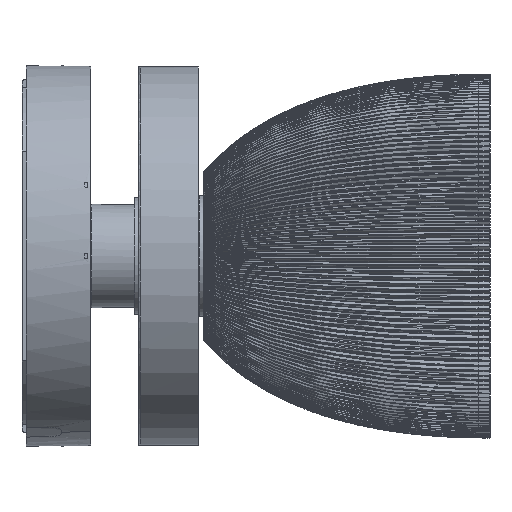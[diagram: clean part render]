
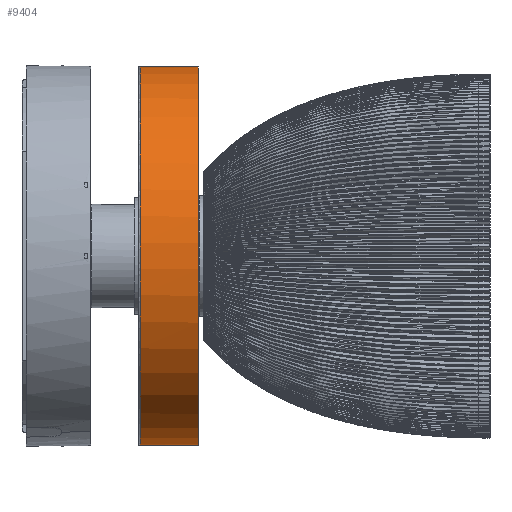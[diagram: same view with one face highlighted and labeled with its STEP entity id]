
A CAD part, left-side view. The second image highlights one B-rep face of the part: STEP entity #9404.
In plain terms, the highlighted free-form (B-spline) face has degree [2, 1] with [5, 2] control points.
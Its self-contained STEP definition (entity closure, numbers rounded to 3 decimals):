
#9404=ADVANCED_FACE('',(#18617),#127626,.T.);
#18617=FACE_OUTER_BOUND('',#27981,.T.);
#27981=EDGE_LOOP('',(#67416,#67417,#67418,#67419));
#67416=ORIENTED_EDGE('',*,*,#87521,.T.);
#67417=ORIENTED_EDGE('',*,*,#87211,.T.);
#67418=ORIENTED_EDGE('',*,*,#87478,.T.);
#67419=ORIENTED_EDGE('',*,*,#87520,.F.);
#87211=EDGE_CURVE('',#118240,#117980,#93168,.T.);
#87478=EDGE_CURVE('',#117980,#118407,#107572,.T.);
#87520=EDGE_CURVE('',#118411,#118407,#93327,.T.);
#87521=EDGE_CURVE('',#118411,#118240,#107610,.T.);
#93168=B_SPLINE_CURVE_WITH_KNOTS('',1,(#453354,#453355),.UNSPECIFIED.,.F.,
 .F.,(2,2),(2.61,22.61),.UNSPECIFIED.);
#93327=B_SPLINE_CURVE_WITH_KNOTS('',1,(#455085,#455086),.UNSPECIFIED.,.F.,
 .F.,(2,2),(2.61,22.61),.UNSPECIFIED.);
#107572=(
BOUNDED_CURVE()
B_SPLINE_CURVE(2,(#454652,#454653,#454654,#454655,#454656),
 .UNSPECIFIED.,.F.,.F.)
B_SPLINE_CURVE_WITH_KNOTS((3,2,3),(0.,102.102,204.204),
 .UNSPECIFIED.)
CURVE()
GEOMETRIC_REPRESENTATION_ITEM()
RATIONAL_B_SPLINE_CURVE((1.,0.707,1.,0.707,1.))
REPRESENTATION_ITEM('')
);
#107610=(
BOUNDED_CURVE()
B_SPLINE_CURVE(2,(#455087,#455088,#455089,#455090,#455091),
 .UNSPECIFIED.,.F.,.F.)
B_SPLINE_CURVE_WITH_KNOTS((3,2,3),(204.204,306.305,408.407),
 .UNSPECIFIED.)
CURVE()
GEOMETRIC_REPRESENTATION_ITEM()
RATIONAL_B_SPLINE_CURVE((1.,0.707,1.,0.707,1.))
REPRESENTATION_ITEM('')
);
#117980=VERTEX_POINT('',#445141);
#118240=VERTEX_POINT('',#445401);
#118407=VERTEX_POINT('',#445568);
#118411=VERTEX_POINT('',#445572);
#127626=(
BOUNDED_SURFACE()
B_SPLINE_SURFACE(2,1,((#443933,#443934),(#443935,#443936),(#443937,#443938),
(#443939,#443940),(#443941,#443942)),.UNSPECIFIED.,.F.,.F.,.F.)
B_SPLINE_SURFACE_WITH_KNOTS((3,2,3),(2,2),(204.204,306.305,
408.407),(0.,25.219),.UNSPECIFIED.)
GEOMETRIC_REPRESENTATION_ITEM()
RATIONAL_B_SPLINE_SURFACE(((1.,1.),(0.707,0.707),
(1.,1.),(0.707,0.707),(1.,1.)))
REPRESENTATION_ITEM('')
SURFACE()
);
#443933=CARTESIAN_POINT('',(0.,-64.11,-65.));
#443934=CARTESIAN_POINT('',(0.,-38.89,-65.));
#443935=CARTESIAN_POINT('',(-65.,-64.11,-65.));
#443936=CARTESIAN_POINT('',(-65.,-38.89,-65.));
#443937=CARTESIAN_POINT('',(-65.,-64.11,0.));
#443938=CARTESIAN_POINT('',(-65.,-38.89,0.));
#443939=CARTESIAN_POINT('',(-65.,-64.11,65.));
#443940=CARTESIAN_POINT('',(-65.,-38.89,65.));
#443941=CARTESIAN_POINT('',(0.,-64.11,65.));
#443942=CARTESIAN_POINT('',(0.,-38.89,65.));
#445141=CARTESIAN_POINT('',(0.,-41.5,65.));
#445401=CARTESIAN_POINT('',(0.,-61.5,65.));
#445568=CARTESIAN_POINT('',(0.,-41.5,-65.));
#445572=CARTESIAN_POINT('',(0.,-61.5,-65.));
#453354=CARTESIAN_POINT('',(0.,-61.5,65.));
#453355=CARTESIAN_POINT('',(0.,-41.5,65.));
#454652=CARTESIAN_POINT('',(0.,-41.5,65.));
#454653=CARTESIAN_POINT('',(-65.,-41.5,65.));
#454654=CARTESIAN_POINT('',(-65.,-41.5,0.));
#454655=CARTESIAN_POINT('',(-65.,-41.5,-65.));
#454656=CARTESIAN_POINT('',(0.,-41.5,-65.));
#455085=CARTESIAN_POINT('',(0.,-61.5,-65.));
#455086=CARTESIAN_POINT('',(0.,-41.5,-65.));
#455087=CARTESIAN_POINT('',(0.,-61.5,-65.));
#455088=CARTESIAN_POINT('',(-65.,-61.5,-65.));
#455089=CARTESIAN_POINT('',(-65.,-61.5,0.));
#455090=CARTESIAN_POINT('',(-65.,-61.5,65.));
#455091=CARTESIAN_POINT('',(0.,-61.5,65.));
